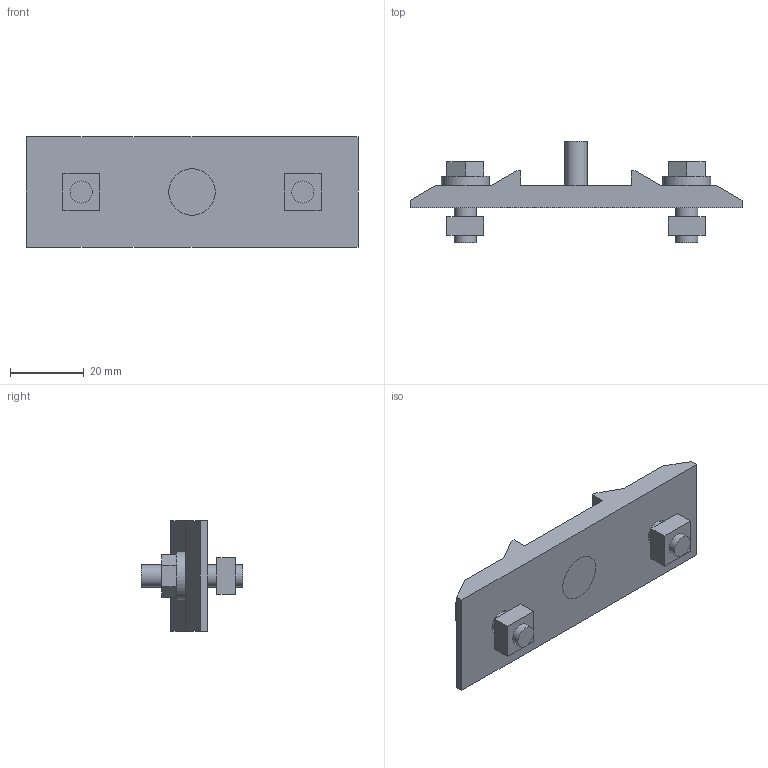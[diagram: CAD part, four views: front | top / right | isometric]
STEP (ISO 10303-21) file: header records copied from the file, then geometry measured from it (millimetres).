
FILE_DESCRIPTION((''),'2;1');
FILE_NAME('C:\Documents and Settings\古川典政\My Documents\Inventor\HP用\MasterData\BRACKET\M6\ABJF-3030-6.stp','2008-07-31T09:13:57',(''),(''),'Autodesk Inventor 2008','Autodesk Inventor 2008','');
FILE_SCHEMA(('CONFIG_CONTROL_DESIGN'));
Length unit declared in the file: millimetre
Products named in the file (7): ABJF-3030-6; ABJF-3030-61; ABJF-3030-62; ABJF-3030-63; ABJF-3030-64; ABJF-3030-65; ABJF-3030-66
Assembly tree (6 placements, depth 2):
  ABJF-3030-6
    ABJF-3030-61
    ABJF-3030-62
    ABJF-3030-63
    ABJF-3030-64
    ABJF-3030-65
    ABJF-3030-66
Bounding box: 90 x 27.5 x 30 mm (x, y, z)
Volume: 19218.6 mm3; surface area: 10355.6 mm2
Topology: 6 solids, 6 shells, 66 faces, 149 edges, 101 vertices
Faces by surface type: plane 52, cylinder 8, bspline 5, cone 1
Full cylindrical faces by diameter (mm): 6 x3, 6.4 x2, 7 x1, 13 x2
Entity records: 1979 total; most frequent: CARTESIAN_POINT 386, DIRECTION 302, ORIENTED_EDGE 256, EDGE_CURVE 128, VECTOR 102, LINE 102, AXIS2_PLACEMENT_3D 100, EDGE_LOOP 96
